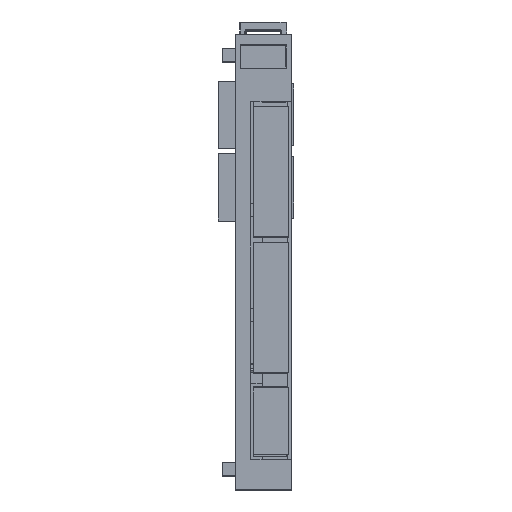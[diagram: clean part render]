
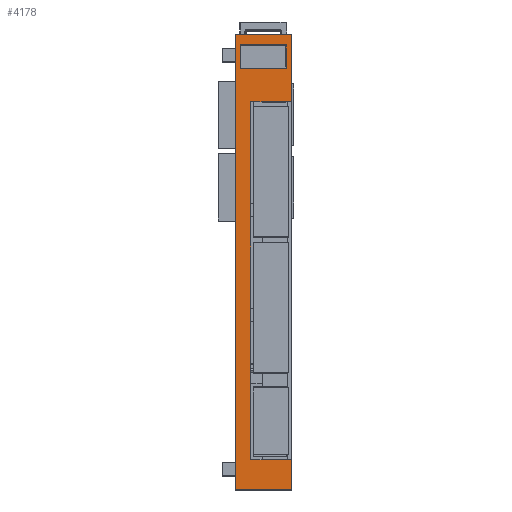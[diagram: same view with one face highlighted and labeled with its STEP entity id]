
A CAD part, top view. The second image highlights one B-rep face of the part: STEP entity #4178.
In plain terms, the highlighted planar face has unit normal (0, 0, 1).
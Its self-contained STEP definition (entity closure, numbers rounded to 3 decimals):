
#86 = VECTOR ( 'NONE', #8071, 1000. ) ;
#506 = VERTEX_POINT ( 'NONE', #4567 ) ;
#602 = CARTESIAN_POINT ( 'NONE',  ( 11.5, -47.248, 58.397 ) ) ;
#1234 = VECTOR ( 'NONE', #21516, 1000. ) ;
#1310 = DIRECTION ( 'NONE',  ( 0., -1., 0. ) ) ;
#1364 = VECTOR ( 'NONE', #4234, 1000. ) ;
#1419 = CARTESIAN_POINT ( 'NONE',  ( 11.5, 46.827, 58.397 ) ) ;
#1666 = DIRECTION ( 'NONE',  ( -1., 0., 0. ) ) ;
#2048 = LINE ( 'NONE', #31887, #14282 ) ;
#2238 = VERTEX_POINT ( 'NONE', #24361 ) ;
#2471 = VECTOR ( 'NONE', #2998, 1000. ) ;
#2998 = DIRECTION ( 'NONE',  ( 1., 0., 0. ) ) ;
#3335 = VECTOR ( 'NONE', #1666, 1000. ) ;
#3572 = ORIENTED_EDGE ( 'NONE', *, *, #7042, .T. ) ;
#3843 = DIRECTION ( 'NONE',  ( 1., 0., 0. ) ) ;
#3908 = LINE ( 'NONE', #7819, #23476 ) ;
#4172 = CARTESIAN_POINT ( 'NONE',  ( 0.15, 39.246, 58.397 ) ) ;
#4178 = ADVANCED_FACE ( 'NONE', ( #31465, #5370 ), #23717, .F. ) ;
#4190 = CARTESIAN_POINT ( 'NONE',  ( -1., 46.827, 58.397 ) ) ;
#4234 = DIRECTION ( 'NONE',  ( 0., 1., 0. ) ) ;
#4567 = CARTESIAN_POINT ( 'NONE',  ( 11.5, 31.902, 58.397 ) ) ;
#5370 = FACE_OUTER_BOUND ( 'NONE', #30548, .T. ) ;
#5654 = CARTESIAN_POINT ( 'NONE',  ( 10.35, 44.446, 58.397 ) ) ;
#6497 = CARTESIAN_POINT ( 'NONE',  ( 2.5, 31.902, 58.397 ) ) ;
#6650 = LINE ( 'NONE', #5654, #86 ) ;
#7005 = CARTESIAN_POINT ( 'NONE',  ( 10.35, 44.446, 58.397 ) ) ;
#7042 = EDGE_CURVE ( 'NONE', #22011, #8336, #11955, .T. ) ;
#7489 = ORIENTED_EDGE ( 'NONE', *, *, #24388, .T. ) ;
#7668 = ORIENTED_EDGE ( 'NONE', *, *, #10218, .F. ) ;
#7688 = LINE ( 'NONE', #23395, #20707 ) ;
#7782 = LINE ( 'NONE', #19037, #1234 ) ;
#7819 = CARTESIAN_POINT ( 'NONE',  ( 11.5, -51.973, 58.397 ) ) ;
#8071 = DIRECTION ( 'NONE',  ( -1., 0., 0. ) ) ;
#8336 = VERTEX_POINT ( 'NONE', #11471 ) ;
#8634 = CARTESIAN_POINT ( 'NONE',  ( 3., -47.248, 58.397 ) ) ;
#8846 = ORIENTED_EDGE ( 'NONE', *, *, #23321, .F. ) ;
#8949 = VERTEX_POINT ( 'NONE', #4190 ) ;
#9622 = VERTEX_POINT ( 'NONE', #17508 ) ;
#9721 = EDGE_CURVE ( 'NONE', #506, #22789, #21916, .T. ) ;
#9820 = DIRECTION ( 'NONE',  ( 0., 1., 0. ) ) ;
#10218 = EDGE_CURVE ( 'NONE', #28036, #22219, #6650, .T. ) ;
#10560 = CARTESIAN_POINT ( 'NONE',  ( 11.5, 44.827, 58.397 ) ) ;
#11243 = ORIENTED_EDGE ( 'NONE', *, *, #23611, .F. ) ;
#11471 = CARTESIAN_POINT ( 'NONE',  ( 2.5, -47.248, 58.397 ) ) ;
#11955 = LINE ( 'NONE', #8634, #30817 ) ;
#12728 = CARTESIAN_POINT ( 'NONE',  ( -1., 31.902, 58.397 ) ) ;
#12818 = VERTEX_POINT ( 'NONE', #15559 ) ;
#13003 = DIRECTION ( 'NONE',  ( 0., 1., 0. ) ) ;
#13532 = CARTESIAN_POINT ( 'NONE',  ( 0.15, 44.446, 58.397 ) ) ;
#13710 = DIRECTION ( 'NONE',  ( 0., 0., -1. ) ) ;
#13842 = CARTESIAN_POINT ( 'NONE',  ( 11.5, -53.973, 58.397 ) ) ;
#14282 = VECTOR ( 'NONE', #9820, 1000. ) ;
#14953 = ORIENTED_EDGE ( 'NONE', *, *, #23105, .T. ) ;
#15351 = VECTOR ( 'NONE', #13003, 1000. ) ;
#15442 = EDGE_CURVE ( 'NONE', #8949, #22789, #7782, .T. ) ;
#15444 = EDGE_LOOP ( 'NONE', ( #31524, #8846, #16447, #7668 ) ) ;
#15559 = CARTESIAN_POINT ( 'NONE',  ( -1., -53.973, 58.397 ) ) ;
#16187 = CARTESIAN_POINT ( 'NONE',  ( 0.15, 44.446, 58.397 ) ) ;
#16318 = LINE ( 'NONE', #13842, #3335 ) ;
#16447 = ORIENTED_EDGE ( 'NONE', *, *, #22149, .F. ) ;
#17297 = VECTOR ( 'NONE', #28278, 1000. ) ;
#17508 = CARTESIAN_POINT ( 'NONE',  ( 10.35, 39.246, 58.397 ) ) ;
#19037 = CARTESIAN_POINT ( 'NONE',  ( -1., 46.827, 58.397 ) ) ;
#19942 = ORIENTED_EDGE ( 'NONE', *, *, #9721, .T. ) ;
#20094 = VERTEX_POINT ( 'NONE', #6497 ) ;
#20112 = ORIENTED_EDGE ( 'NONE', *, *, #15442, .F. ) ;
#20707 = VECTOR ( 'NONE', #1310, 1000. ) ;
#21245 = CARTESIAN_POINT ( 'NONE',  ( 2., 43.727, 58.397 ) ) ;
#21269 = VERTEX_POINT ( 'NONE', #4172 ) ;
#21516 = DIRECTION ( 'NONE',  ( 1., 0., 0. ) ) ;
#21916 = LINE ( 'NONE', #10560, #15351 ) ;
#22011 = VERTEX_POINT ( 'NONE', #602 ) ;
#22149 = EDGE_CURVE ( 'NONE', #22219, #21269, #23864, .T. ) ;
#22219 = VERTEX_POINT ( 'NONE', #16187 ) ;
#22789 = VERTEX_POINT ( 'NONE', #1419 ) ;
#23105 = EDGE_CURVE ( 'NONE', #20094, #506, #28573, .T. ) ;
#23321 = EDGE_CURVE ( 'NONE', #21269, #9622, #30107, .T. ) ;
#23395 = CARTESIAN_POINT ( 'NONE',  ( 2.5, 31.902, 58.397 ) ) ;
#23426 = DIRECTION ( 'NONE',  ( -1., 0., 0. ) ) ;
#23476 = VECTOR ( 'NONE', #24987, 1000. ) ;
#23611 = EDGE_CURVE ( 'NONE', #12818, #8949, #2048, .T. ) ;
#23717 = PLANE ( 'NONE',  #28466 ) ;
#23864 = LINE ( 'NONE', #13532, #17297 ) ;
#24361 = CARTESIAN_POINT ( 'NONE',  ( 11.5, -53.973, 58.397 ) ) ;
#24388 = EDGE_CURVE ( 'NONE', #2238, #22011, #3908, .T. ) ;
#24828 = ORIENTED_EDGE ( 'NONE', *, *, #26566, .F. ) ;
#24987 = DIRECTION ( 'NONE',  ( 0., 1., 0. ) ) ;
#25165 = EDGE_CURVE ( 'NONE', #20094, #8336, #7688, .T. ) ;
#26216 = DIRECTION ( 'NONE',  ( 0., 1., 0. ) ) ;
#26276 = ORIENTED_EDGE ( 'NONE', *, *, #25165, .F. ) ;
#26566 = EDGE_CURVE ( 'NONE', #2238, #12818, #16318, .T. ) ;
#27512 = LINE ( 'NONE', #28783, #1364 ) ;
#28036 = VERTEX_POINT ( 'NONE', #7005 ) ;
#28278 = DIRECTION ( 'NONE',  ( 0., -1., 0. ) ) ;
#28466 = AXIS2_PLACEMENT_3D ( 'NONE', #21245, #13710, #26216 ) ;
#28573 = LINE ( 'NONE', #12728, #2471 ) ;
#28783 = CARTESIAN_POINT ( 'NONE',  ( 10.35, 39.246, 58.397 ) ) ;
#29316 = VECTOR ( 'NONE', #3843, 1000. ) ;
#30107 = LINE ( 'NONE', #30799, #29316 ) ;
#30326 = EDGE_CURVE ( 'NONE', #9622, #28036, #27512, .T. ) ;
#30548 = EDGE_LOOP ( 'NONE', ( #3572, #26276, #14953, #19942, #20112, #11243, #24828, #7489 ) ) ;
#30799 = CARTESIAN_POINT ( 'NONE',  ( 0.15, 39.246, 58.397 ) ) ;
#30817 = VECTOR ( 'NONE', #23426, 1000. ) ;
#31465 = FACE_BOUND ( 'NONE', #15444, .T. ) ;
#31524 = ORIENTED_EDGE ( 'NONE', *, *, #30326, .F. ) ;
#31887 = CARTESIAN_POINT ( 'NONE',  ( -1., -50.873, 58.397 ) ) ;
